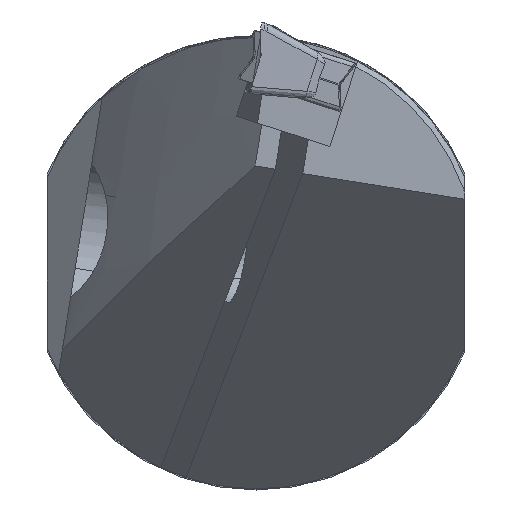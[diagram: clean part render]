
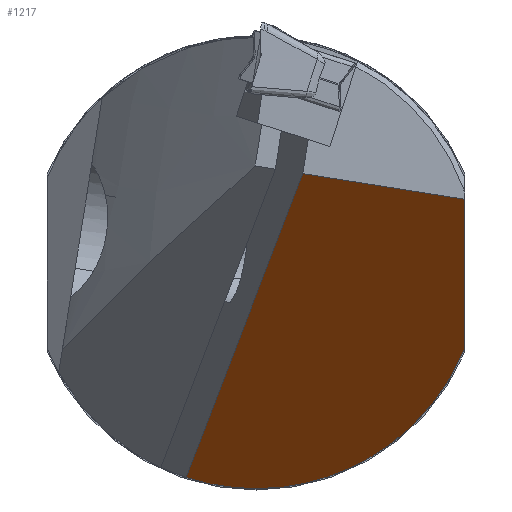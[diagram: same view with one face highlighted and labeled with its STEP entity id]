
A CAD part, left-side view. The second image highlights one B-rep face of the part: STEP entity #1217.
In plain terms, the highlighted planar face has unit normal (-0.707, 0.111, -0.698).
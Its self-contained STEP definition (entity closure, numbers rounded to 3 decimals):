
#931=VECTOR('Line Direction',#930,1.) ;
#1110=VECTOR('Line Direction',#1109,1.) ;
#1208=VECTOR('Line Direction',#1207,1.) ;
#418=DIRECTION('Axis2P3D Direction',(-0.707,0.111,-0.698)) ;
#419=DIRECTION('Axis2P3D XDirection',(0.707,0.111,-0.698)) ;
#930=DIRECTION('Vector Direction',(0.703,0.,-0.711)) ;
#1109=DIRECTION('Vector Direction',(0.699,0.256,-0.667)) ;
#1207=DIRECTION('Vector Direction',(0.,-0.988,-0.156)) ;
#417=CARTESIAN_POINT('Axis2P3D Location',(0.,0.961,-17.465)) ;
#651=CARTESIAN_POINT('Vertex',(17.531,5.629,-34.475)) ;
#705=CARTESIAN_POINT('Vertex',(8.107,-9.717,-27.364)) ;
#709=CARTESIAN_POINT('Control Point',(17.531,5.629,-34.475)) ;
#710=CARTESIAN_POINT('Control Point',(17.713,4.523,-34.835)) ;
#711=CARTESIAN_POINT('Control Point',(17.765,3.355,-35.072)) ;
#712=CARTESIAN_POINT('Control Point',(17.668,2.166,-35.162)) ;
#713=CARTESIAN_POINT('Control Point',(17.273,0.187,-35.075)) ;
#714=CARTESIAN_POINT('Control Point',(16.558,-1.639,-34.641)) ;
#715=CARTESIAN_POINT('Control Point',(16.218,-2.355,-34.41)) ;
#716=CARTESIAN_POINT('Control Point',(15.399,-3.827,-33.814)) ;
#717=CARTESIAN_POINT('Control Point',(14.432,-5.117,-33.039)) ;
#718=CARTESIAN_POINT('Control Point',(13.878,-5.758,-32.579)) ;
#719=CARTESIAN_POINT('Control Point',(12.469,-7.187,-31.38)) ;
#720=CARTESIAN_POINT('Control Point',(10.939,-8.314,-30.009)) ;
#721=CARTESIAN_POINT('Control Point',(10.011,-8.877,-29.158)) ;
#722=CARTESIAN_POINT('Control Point',(9.065,-9.344,-28.274)) ;
#723=CARTESIAN_POINT('Control Point',(8.107,-9.717,-27.364)) ;
#926=CARTESIAN_POINT('Vertex',(0.,-9.717,-19.156)) ;
#929=CARTESIAN_POINT('Line Origine',(4.054,-9.717,-23.26)) ;
#1108=CARTESIAN_POINT('Line Origine',(8.765,2.417,-26.109)) ;
#1112=CARTESIAN_POINT('Vertex',(0.,-0.794,-17.743)) ;
#1206=CARTESIAN_POINT('Line Origine',(0.,-5.255,-18.449)) ;
#420=AXIS2_PLACEMENT_3D('Plane Axis2P3D',#417,#418,#419) ;
#724=EDGE_CURVE('',#652,#706,#708,.T.) ;
#933=EDGE_CURVE('',#927,#706,#932,.T.) ;
#1114=EDGE_CURVE('',#1113,#652,#1111,.T.) ;
#1210=EDGE_CURVE('',#1113,#927,#1209,.T.) ;
#421=PLANE('Plane',#420) ;
#1212=ORIENTED_EDGE('',*,*,#724,.T.) ;
#1213=ORIENTED_EDGE('',*,*,#933,.F.) ;
#1214=ORIENTED_EDGE('',*,*,#1210,.F.) ;
#1215=ORIENTED_EDGE('',*,*,#1114,.T.) ;
#932=LINE('Line',#929,#931) ;
#1111=LINE('Line',#1108,#1110) ;
#1209=LINE('Line',#1206,#1208) ;
#1217=ADVANCED_FACE('PartBody',(#1216),#421,.T.) ;
#652=VERTEX_POINT('',#651) ;
#706=VERTEX_POINT('',#705) ;
#927=VERTEX_POINT('',#926) ;
#1113=VERTEX_POINT('',#1112) ;
#708=B_SPLINE_CURVE_WITH_KNOTS('',5,(#709,#710,#711,#712,#713,#714,#715,#716,#717,#718,#719,#720,#721,#722,#723),.UNSPECIFIED.,.F.,.U.,(6,3,3,3,6),(0.,8.344,14.16,20.964,30.692),.UNSPECIFIED.) ;
#1211=EDGE_LOOP('',(#1212,#1213,#1214,#1215)) ;
#1216=FACE_OUTER_BOUND('',#1211,.T.) ;
